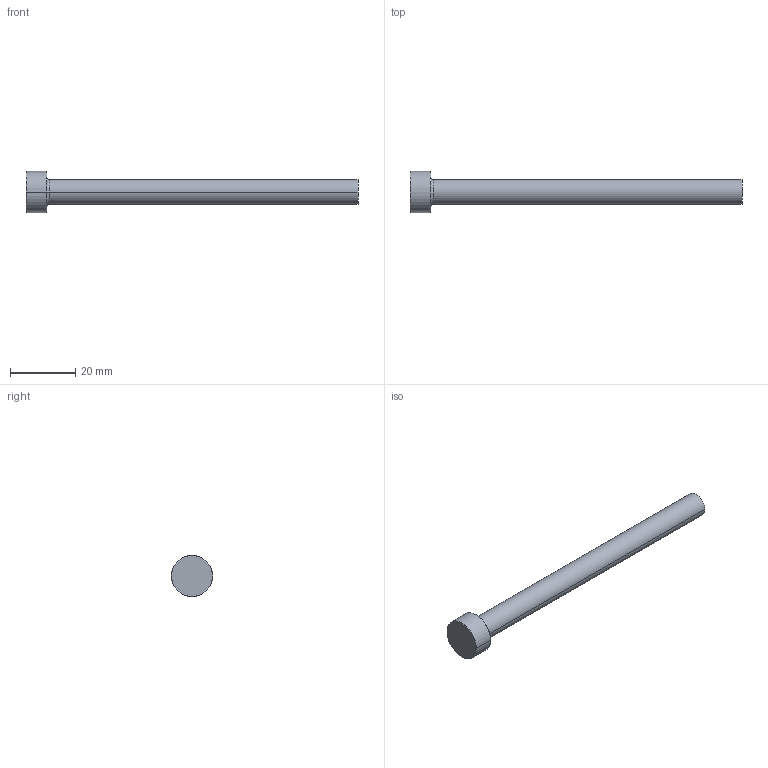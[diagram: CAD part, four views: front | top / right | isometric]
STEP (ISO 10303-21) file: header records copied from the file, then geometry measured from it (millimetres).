
FILE_DESCRIPTION (( 'STEP AP214' ), '1' );
FILE_NAME ('P20-4.STEP', '2020-03-12T09:03:31', ( '' ), ( '' ), 'SwSTEP 2.0', 'SolidWorks 2018', '' );
FILE_SCHEMA (( 'AUTOMOTIVE_DESIGN' ));
Length unit declared in the file: inch
Products named in the file (1): P20-4
Bounding box: 101.6 x 12.7 x 12.7 mm (x, y, z)
Volume: 5052.2 mm3; surface area: 2748.6 mm2
Topology: 1 solids, 1 shells, 13 faces, 24 edges, 14 vertices
Faces by surface type: cone 4, cylinder 4, plane 3, torus 2
Entity records: 366 total; most frequent: DIRECTION 68, CARTESIAN_POINT 52, ORIENTED_EDGE 48, AXIS2_PLACEMENT_3D 30, EDGE_CURVE 24, CIRCLE 16, VERTEX_POINT 14, EDGE_LOOP 14
